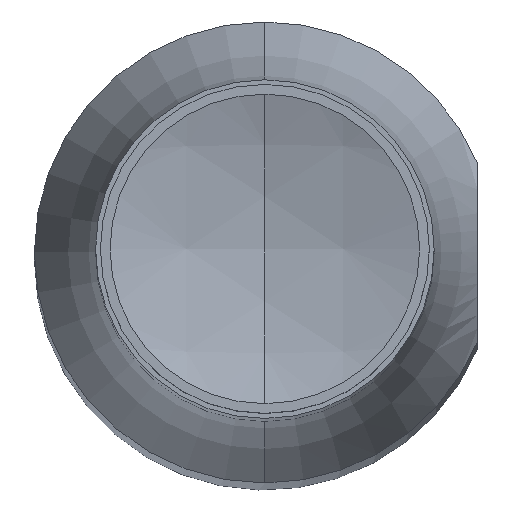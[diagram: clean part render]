
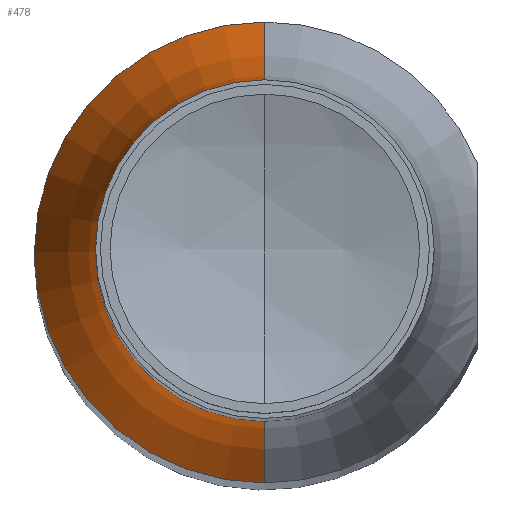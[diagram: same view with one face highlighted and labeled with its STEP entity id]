
A CAD part, top view. The second image highlights one B-rep face of the part: STEP entity #478.
In plain terms, the highlighted toroidal (fillet/blend) face has major radius 17.795 mm and minor radius 14.295 mm.
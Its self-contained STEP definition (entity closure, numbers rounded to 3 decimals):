
#1 = DIRECTION ( 'NONE',  ( -1., 0., 0. ) ) ;
#4 = DIRECTION ( 'NONE',  ( 0., -1., 0. ) ) ;
#12 = ORIENTED_EDGE ( 'NONE', *, *, #128, .F. ) ;
#34 = ORIENTED_EDGE ( 'NONE', *, *, #359, .T. ) ;
#36 = CIRCLE ( 'NONE', #378, 3.5 ) ;
#45 = CARTESIAN_POINT ( 'NONE',  ( 0., 0., -42.333 ) ) ;
#52 = DIRECTION ( 'NONE',  ( 0., -1., 0. ) ) ;
#56 = EDGE_CURVE ( 'NONE', #440, #374, #339, .T. ) ;
#63 = CARTESIAN_POINT ( 'NONE',  ( 0., 4.765, -42.333 ) ) ;
#76 = AXIS2_PLACEMENT_3D ( 'NONE', #45, #198, #322 ) ;
#79 = ORIENTED_EDGE ( 'NONE', *, *, #457, .T. ) ;
#89 = CARTESIAN_POINT ( 'NONE',  ( -3.5, 0., -36.454 ) ) ;
#122 = DIRECTION ( 'NONE',  ( 0., 0., -1. ) ) ;
#123 = CIRCLE ( 'NONE', #76, 4.765 ) ;
#125 = TOROIDAL_SURFACE ( 'NONE', #428, 17.795, 14.295 ) ;
#126 = CARTESIAN_POINT ( 'NONE',  ( 0., -3.5, -36.454 ) ) ;
#128 = EDGE_CURVE ( 'NONE', #440, #240, #123, .T. ) ;
#145 = CARTESIAN_POINT ( 'NONE',  ( 0., 3.5, -36.454 ) ) ;
#154 = CARTESIAN_POINT ( 'NONE',  ( 0., 0., -36.454 ) ) ;
#174 = EDGE_LOOP ( 'NONE', ( #12, #394, #34, #79, #187 ) ) ;
#187 = ORIENTED_EDGE ( 'NONE', *, *, #415, .F. ) ;
#198 = DIRECTION ( 'NONE',  ( 0., 0., -1. ) ) ;
#237 = FACE_OUTER_BOUND ( 'NONE', #174, .T. ) ;
#240 = VERTEX_POINT ( 'NONE', #63 ) ;
#252 = DIRECTION ( 'NONE',  ( 0., 0., -1. ) ) ;
#282 = DIRECTION ( 'NONE',  ( 1., 0., 0. ) ) ;
#314 = VERTEX_POINT ( 'NONE', #89 ) ;
#322 = DIRECTION ( 'NONE',  ( 0., 1., 0. ) ) ;
#335 = DIRECTION ( 'NONE',  ( 0., 0., 1. ) ) ;
#339 = CIRCLE ( 'NONE', #501, 14.295 ) ;
#342 = CARTESIAN_POINT ( 'NONE',  ( 0., 0., -36.454 ) ) ;
#344 = CIRCLE ( 'NONE', #355, 14.295 ) ;
#355 = AXIS2_PLACEMENT_3D ( 'NONE', #458, #1, #335 ) ;
#359 = EDGE_CURVE ( 'NONE', #374, #314, #36, .T. ) ;
#367 = DIRECTION ( 'NONE',  ( 0., 0., -1. ) ) ;
#368 = AXIS2_PLACEMENT_3D ( 'NONE', #454, #252, #52 ) ;
#374 = VERTEX_POINT ( 'NONE', #126 ) ;
#378 = AXIS2_PLACEMENT_3D ( 'NONE', #342, #122, #4 ) ;
#394 = ORIENTED_EDGE ( 'NONE', *, *, #56, .T. ) ;
#415 = EDGE_CURVE ( 'NONE', #240, #532, #344, .T. ) ;
#419 = CARTESIAN_POINT ( 'NONE',  ( 0., -4.765, -42.333 ) ) ;
#428 = AXIS2_PLACEMENT_3D ( 'NONE', #154, #367, #530 ) ;
#440 = VERTEX_POINT ( 'NONE', #419 ) ;
#454 = CARTESIAN_POINT ( 'NONE',  ( 0., 0., -36.454 ) ) ;
#457 = EDGE_CURVE ( 'NONE', #314, #532, #494, .T. ) ;
#458 = CARTESIAN_POINT ( 'NONE',  ( 0., 17.795, -36.454 ) ) ;
#478 = ADVANCED_FACE ( 'NONE', ( #237 ), #125, .F. ) ;
#483 = DIRECTION ( 'NONE',  ( 0., 1., 0. ) ) ;
#487 = CARTESIAN_POINT ( 'NONE',  ( 0., -17.795, -36.454 ) ) ;
#494 = CIRCLE ( 'NONE', #368, 3.5 ) ;
#501 = AXIS2_PLACEMENT_3D ( 'NONE', #487, #282, #483 ) ;
#530 = DIRECTION ( 'NONE',  ( 0., 1., 0. ) ) ;
#532 = VERTEX_POINT ( 'NONE', #145 ) ;
